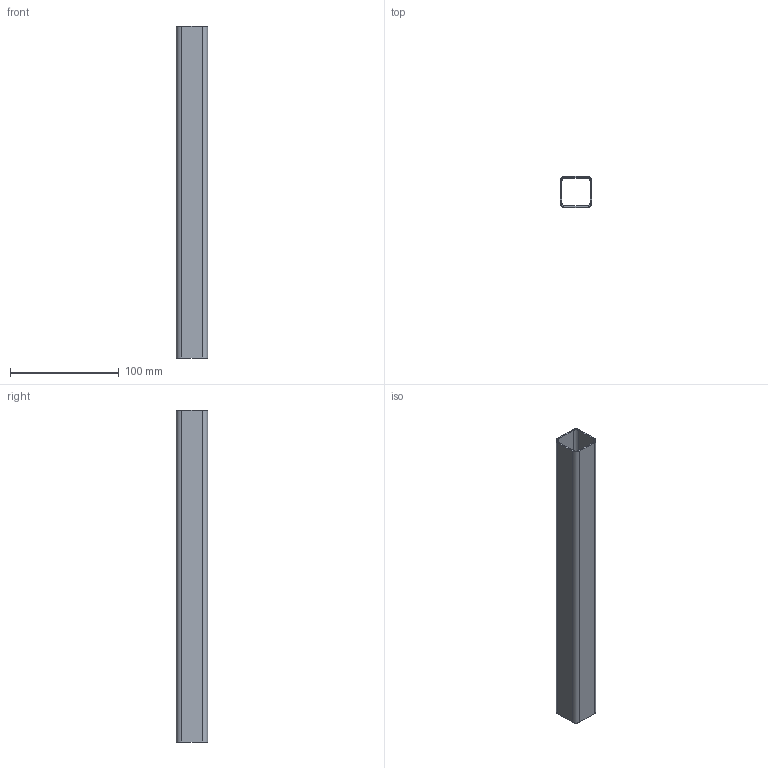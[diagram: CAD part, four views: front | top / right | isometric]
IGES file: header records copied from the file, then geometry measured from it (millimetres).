
Start section: SolidWorks IGES file using analytic representation for surfaces
Global section: file name: O:\Database\Dumb Solids - Coupling & Gussets\DRP-002-0001-01.IGS; native system: SolidWorks 2011; preprocessor: SolidWorks 2011; author: mbush2; date: 111206.171307; units: inch
Bounding box: 28.75 x 28.75 x 304.8 mm (x, y, z)
Surface area: 62872.2 mm2 (no closed solid volume)
Topology: 0 solids, 0 shells, 18 faces, 208 edges, 208 vertices
Faces by surface type: bspline 10, revolution 8
